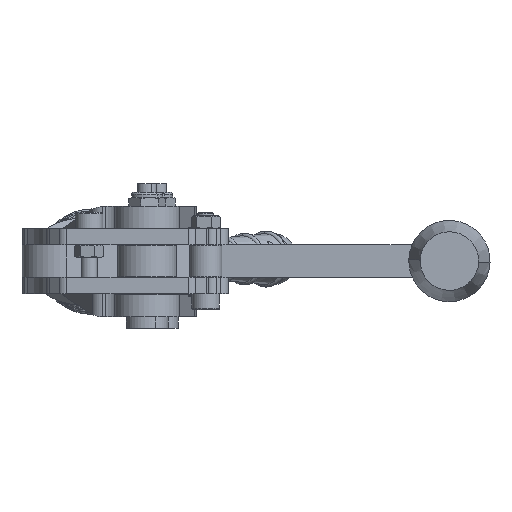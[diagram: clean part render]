
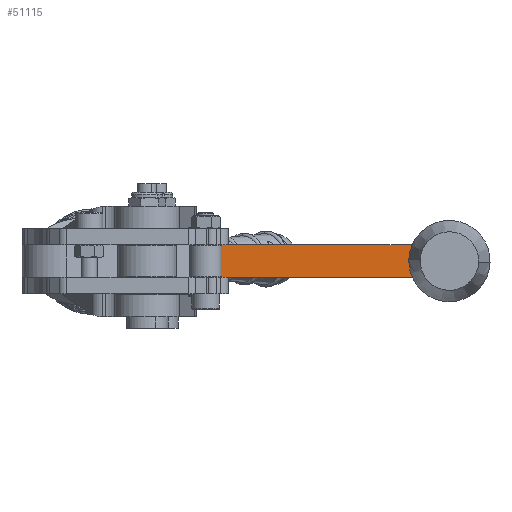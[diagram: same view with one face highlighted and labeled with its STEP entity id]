
A CAD part, front view. The second image highlights one B-rep face of the part: STEP entity #51115.
In plain terms, the highlighted planar face has unit normal (0, -1, 0) as drawn and (0, -0.865, -0.502) by its records, which use the part's own axes.
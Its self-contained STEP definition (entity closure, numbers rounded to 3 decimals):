
#1246 = DIRECTION ( 'NONE',  ( 1., 0., 0. ) ) ;
#1459 = DIRECTION ( 'NONE',  ( 0., -0.502, 0.865 ) ) ;
#3118 = LINE ( 'NONE', #26872, #37587 ) ;
#4451 = ORIENTED_EDGE ( 'NONE', *, *, #30337, .T. ) ;
#5876 = VERTEX_POINT ( 'NONE', #35561 ) ;
#7060 = EDGE_CURVE ( 'NONE', #12564, #35245, #53963, .T. ) ;
#11376 = VECTOR ( 'NONE', #1246, 1000. ) ;
#11553 = CARTESIAN_POINT ( 'NONE',  ( -5.004, -30.901, 67.006 ) ) ;
#12435 = CARTESIAN_POINT ( 'NONE',  ( -5.004, -35.325, 74.636 ) ) ;
#12564 = VERTEX_POINT ( 'NONE', #31949 ) ;
#13053 = EDGE_CURVE ( 'NONE', #59013, #42915, #40386, .T. ) ;
#13245 = EDGE_CURVE ( 'NONE', #5876, #59013, #3118, .T. ) ;
#13246 = CARTESIAN_POINT ( 'NONE',  ( -63.793, -35.325, 74.636 ) ) ;
#14323 = EDGE_CURVE ( 'NONE', #5876, #12564, #25612, .T. ) ;
#15409 = ORIENTED_EDGE ( 'NONE', *, *, #13245, .T. ) ;
#16109 = VECTOR ( 'NONE', #19996, 1000. ) ;
#16603 = DIRECTION ( 'NONE',  ( 1., 0., 0. ) ) ;
#16904 = VECTOR ( 'NONE', #1459, 1000. ) ;
#19945 = CARTESIAN_POINT ( 'NONE',  ( -5.004, -49.977, 99.905 ) ) ;
#19996 = DIRECTION ( 'NONE',  ( 0., 0.502, -0.865 ) ) ;
#21067 = EDGE_LOOP ( 'NONE', ( #58810, #24703, #15409, #32975, #47232, #4451 ) ) ;
#21116 = AXIS2_PLACEMENT_3D ( 'NONE', #13246, #32579, #26865 ) ;
#23888 = CARTESIAN_POINT ( 'NONE',  ( -5.004, -30.901, 67.006 ) ) ;
#24703 = ORIENTED_EDGE ( 'NONE', *, *, #14323, .F. ) ;
#25612 = LINE ( 'NONE', #19945, #11376 ) ;
#26865 = DIRECTION ( 'NONE',  ( 0., 0.502, -0.865 ) ) ;
#26872 = CARTESIAN_POINT ( 'NONE',  ( -5.004, -30.901, 67.006 ) ) ;
#27361 = VECTOR ( 'NONE', #37417, 1000. ) ;
#30126 = CARTESIAN_POINT ( 'NONE',  ( 5.004, -35.325, 74.636 ) ) ;
#30337 = EDGE_CURVE ( 'NONE', #57930, #35245, #52386, .T. ) ;
#31949 = CARTESIAN_POINT ( 'NONE',  ( 5.004, -49.977, 99.905 ) ) ;
#32277 = DIRECTION ( 'NONE',  ( 0., 0.502, -0.865 ) ) ;
#32579 = DIRECTION ( 'NONE',  ( 0., -0.865, -0.502 ) ) ;
#32975 = ORIENTED_EDGE ( 'NONE', *, *, #13053, .T. ) ;
#35056 = LINE ( 'NONE', #12435, #16904 ) ;
#35245 = VERTEX_POINT ( 'NONE', #35526 ) ;
#35526 = CARTESIAN_POINT ( 'NONE',  ( 5.004, -17.371, 43.674 ) ) ;
#35561 = CARTESIAN_POINT ( 'NONE',  ( -5.004, -49.977, 99.905 ) ) ;
#37417 = DIRECTION ( 'NONE',  ( 1., 0., 0. ) ) ;
#37587 = VECTOR ( 'NONE', #32277, 1000. ) ;
#40386 = LINE ( 'NONE', #11553, #56989 ) ;
#42915 = VERTEX_POINT ( 'NONE', #58119 ) ;
#43453 = CARTESIAN_POINT ( 'NONE',  ( -5.004, -17.371, 43.674 ) ) ;
#44393 = PLANE ( 'NONE',  #21116 ) ;
#47232 = ORIENTED_EDGE ( 'NONE', *, *, #60018, .F. ) ;
#51115 = ADVANCED_FACE ( 'NONE', ( #53929 ), #44393, .T. ) ;
#51684 = CARTESIAN_POINT ( 'NONE',  ( -5.004, -17.371, 43.674 ) ) ;
#52386 = LINE ( 'NONE', #43453, #27361 ) ;
#53929 = FACE_OUTER_BOUND ( 'NONE', #21067, .T. ) ;
#53963 = LINE ( 'NONE', #30126, #16109 ) ;
#56989 = VECTOR ( 'NONE', #16603, 1000. ) ;
#57930 = VERTEX_POINT ( 'NONE', #51684 ) ;
#58119 = CARTESIAN_POINT ( 'NONE',  ( -5.004, -30.901, 67.006 ) ) ;
#58810 = ORIENTED_EDGE ( 'NONE', *, *, #7060, .F. ) ;
#59013 = VERTEX_POINT ( 'NONE', #23888 ) ;
#60018 = EDGE_CURVE ( 'NONE', #57930, #42915, #35056, .T. ) ;
